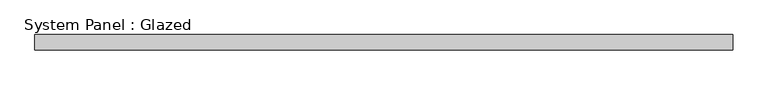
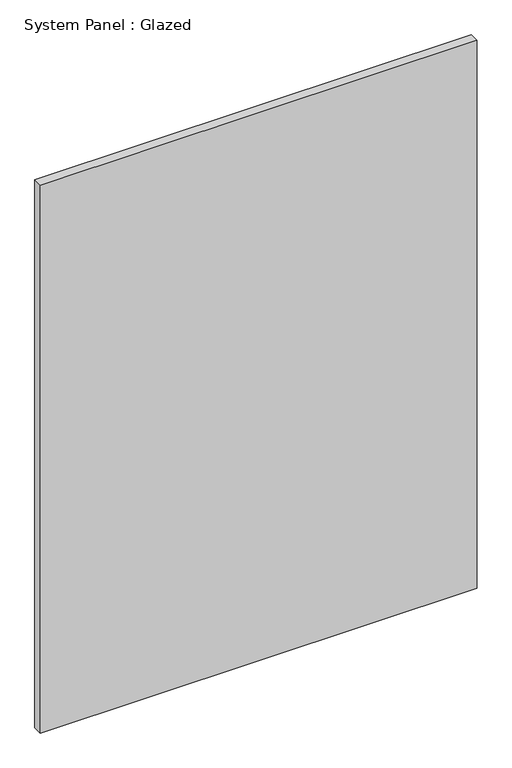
"""IFC4 building model written with IfcOpenShell, lengths in millimetres: plate geometry, System Panel : Glazed."""

from ifc_helpers import new_model, si_unit, origin, origin_with_axes, place, context, project, spatial, polyline, outline, extrude, source, transform, mapped, element, save


def system_panel_glazed_c5a436a7(model_context):
    return source(origin(), model_context, "Body", "SweptSolid", [
        extrude(outline(polyline([(575.0, 24.5), (-575.0, 24.5), (-575.0, 49.5), (575.0, 49.5), (575.0, 24.5)])), origin_with_axes(), (0.0, 0.0, 1.0), 1525.0),
    ])


if __name__ == "__main__":
    model = new_model("IFC4")
    model_context = context("Model", 3, world=origin())
    ifc_project = project(units=[si_unit("LENGTHUNIT", "METRE", prefix="MILLI")], contexts=[model_context])
    site = spatial("IfcSite", under=ifc_project)
    building = spatial("IfcBuilding", under=site)
    placement = place(None, origin())
    system_panel_glazed_shape = system_panel_glazed_c5a436a7(model_context)
    element("IfcPlate", 1, ObjectType="System Panel : Glazed", at=placement, inside=building, context=model_context, shape_type="MappedRepresentation", body=[
        mapped(system_panel_glazed_shape, transform((0.0, 0.0, 0.0), x_axis=(1.0, 0.0, 0.0), y_axis=(0.0, 1.0, 0.0), z_axis=(0.0, 0.0, 1.0))),
    ])
    save(model, "model.ifc")
